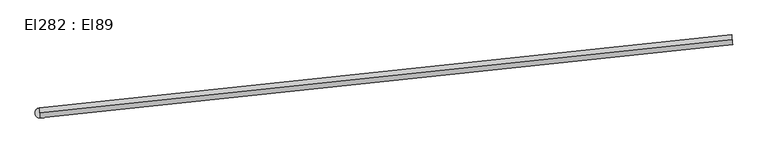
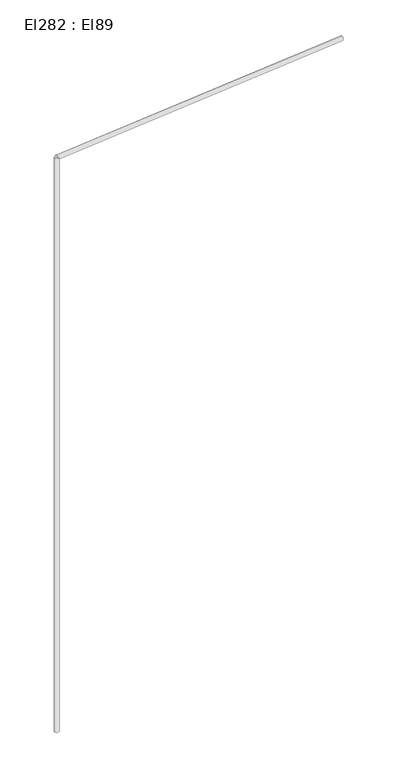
"""IFC4 building model written with IfcOpenShell, lengths in millimetres: cable carrier segment geometry, El282 : El89."""

from ifc_helpers import new_model, si_unit, point, frame, frame_2d, origin, place, context, project, spatial, circle_curve, trimmed, segment, composite_curve, outline, extrude, source, transform, mapped, element, save


def el282_el89_2b9ef747(model_context):
    return source(origin(), model_context, "Body", "SweptSolid", [
        extrude(outline(composite_curve([segment(trimmed(circle_curve(frame_2d((19844.4786511, 7766.6726745)), 9.5), [point((19834.9786511, 7766.6726745))], [point((19853.9786511, 7766.6726745))], False, "CARTESIAN"), True, "CONTINUOUS"), segment(trimmed(circle_curve(frame_2d((19844.4786511, 7766.6726745)), 9.5), [point((19853.9786511, 7766.6726745))], [point((19834.9786511, 7766.6726745))], False, "CARTESIAN"), True, "CONTINUOUS")], self_intersect=False)), frame((0.0, 0.0, 1830.0), z_axis=(0.0, 0.0, 1.0), x_axis=(1.0, 0.0, 0.0)), (0.0, 0.0, 1.0), 2620.0),
        extrude(outline(composite_curve([segment(trimmed(circle_curve(frame_2d((0.0, -9.5)), 9.5), [point((0.0, -19.0))], [point((0.0, 0.0))], False, "CARTESIAN"), True, "CONTINUOUS"), segment(trimmed(circle_curve(frame_2d((0.0, -9.5)), 9.5), [point((0.0, 0.0))], [point((0.0, -19.0))], False, "CARTESIAN"), True, "CONTINUOUS")], self_intersect=False)), frame((19844.4780058, 7766.6724659, 4459.5), z_axis=(0.9944207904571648, 0.10548597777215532, 0.0), x_axis=(-0.10548597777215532, 0.9944207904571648, 0.0)), (0.0, 0.0, 1.0), 1320.86),
    ])


if __name__ == "__main__":
    model = new_model("IFC4")
    model_context = context("Model", 3, world=origin())
    ifc_project = project(units=[si_unit("LENGTHUNIT", "METRE", prefix="MILLI")], contexts=[model_context])
    site = spatial("IfcSite", under=ifc_project)
    building = spatial("IfcBuilding", under=site)
    placement = place(None, origin())
    el282_el89_shape = el282_el89_2b9ef747(model_context)
    element("IfcCableCarrierSegment", 1, ObjectType="El282 : El89", at=placement, inside=building, context=model_context, shape_type="MappedRepresentation", body=[
        mapped(el282_el89_shape, transform((0.0, 0.0, 0.0), x_axis=(1.0, 0.0, 0.0), y_axis=(0.0, 1.0, 0.0), z_axis=(0.0, 0.0, 1.0))),
    ])
    save(model, "model.ifc")
